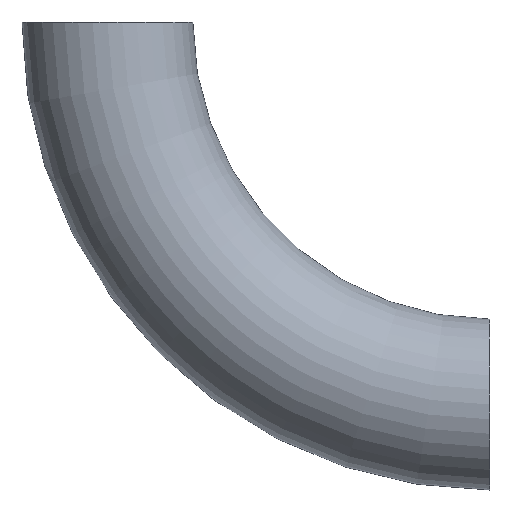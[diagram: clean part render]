
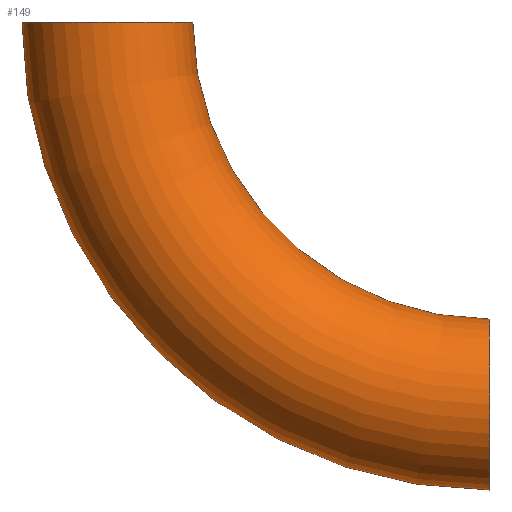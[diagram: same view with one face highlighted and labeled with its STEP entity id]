
A CAD part, front view. The second image highlights one B-rep face of the part: STEP entity #149.
In plain terms, the highlighted toroidal (fillet/blend) face has major radius 135 mm and minor radius 30.15 mm.
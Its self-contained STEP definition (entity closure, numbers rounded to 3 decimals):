
#2 = ORIENTED_EDGE ( 'NONE', *, *, #194, .T. ) ;
#6 = CARTESIAN_POINT ( 'NONE',  ( 0., 0., -104.85 ) ) ;
#8 = CARTESIAN_POINT ( 'NONE',  ( 0., 0., 0. ) ) ;
#19 = CIRCLE ( 'NONE', #103, 165.15 ) ;
#24 = CARTESIAN_POINT ( 'NONE',  ( -165.15, 0., 0. ) ) ;
#25 = CARTESIAN_POINT ( 'NONE',  ( 0., 0., 0. ) ) ;
#27 = DIRECTION ( 'NONE',  ( 0., 0., 1. ) ) ;
#31 = CARTESIAN_POINT ( 'NONE',  ( 0., 0., -135. ) ) ;
#35 = AXIS2_PLACEMENT_3D ( 'NONE', #31, #91, #135 ) ;
#42 = AXIS2_PLACEMENT_3D ( 'NONE', #110, #48, #89 ) ;
#48 = DIRECTION ( 'NONE',  ( 0., 0., 1. ) ) ;
#50 = CARTESIAN_POINT ( 'NONE',  ( 0., 0., 0. ) ) ;
#69 = TOROIDAL_SURFACE ( 'NONE', #101, 135., 30.15 ) ;
#79 = CIRCLE ( 'NONE', #42, 30.15 ) ;
#82 = EDGE_LOOP ( 'NONE', ( #179, #2, #230, #120 ) ) ;
#89 = DIRECTION ( 'NONE',  ( 1., 0., 0. ) ) ;
#90 = DIRECTION ( 'NONE',  ( 0., 1., 0. ) ) ;
#91 = DIRECTION ( 'NONE',  ( -1., 0., 0. ) ) ;
#101 = AXIS2_PLACEMENT_3D ( 'NONE', #50, #90, #27 ) ;
#103 = AXIS2_PLACEMENT_3D ( 'NONE', #25, #152, #163 ) ;
#110 = CARTESIAN_POINT ( 'NONE',  ( -135., 0., 0. ) ) ;
#120 = ORIENTED_EDGE ( 'NONE', *, *, #132, .F. ) ;
#125 = VERTEX_POINT ( 'NONE', #189 ) ;
#132 = EDGE_CURVE ( 'NONE', #218, #181, #79, .T. ) ;
#135 = DIRECTION ( 'NONE',  ( 0., 0., 1. ) ) ;
#149 = ADVANCED_FACE ( 'NONE', ( #187 ), #69, .T. ) ;
#151 = EDGE_CURVE ( 'NONE', #250, #181, #239, .T. ) ;
#152 = DIRECTION ( 'NONE',  ( 0., 1., 0. ) ) ;
#163 = DIRECTION ( 'NONE',  ( 0., 0., 1. ) ) ;
#179 = ORIENTED_EDGE ( 'NONE', *, *, #209, .F. ) ;
#181 = VERTEX_POINT ( 'NONE', #242 ) ;
#187 = FACE_OUTER_BOUND ( 'NONE', #82, .T. ) ;
#189 = CARTESIAN_POINT ( 'NONE',  ( 0., 0., -165.15 ) ) ;
#194 = EDGE_CURVE ( 'NONE', #125, #250, #249, .T. ) ;
#208 = DIRECTION ( 'NONE',  ( 0., 0., 1. ) ) ;
#209 = EDGE_CURVE ( 'NONE', #125, #218, #19, .T. ) ;
#216 = AXIS2_PLACEMENT_3D ( 'NONE', #8, #224, #208 ) ;
#218 = VERTEX_POINT ( 'NONE', #24 ) ;
#224 = DIRECTION ( 'NONE',  ( 0., 1., 0. ) ) ;
#230 = ORIENTED_EDGE ( 'NONE', *, *, #151, .T. ) ;
#239 = CIRCLE ( 'NONE', #216, 104.85 ) ;
#242 = CARTESIAN_POINT ( 'NONE',  ( -104.85, 0., 0. ) ) ;
#249 = CIRCLE ( 'NONE', #35, 30.15 ) ;
#250 = VERTEX_POINT ( 'NONE', #6 ) ;
